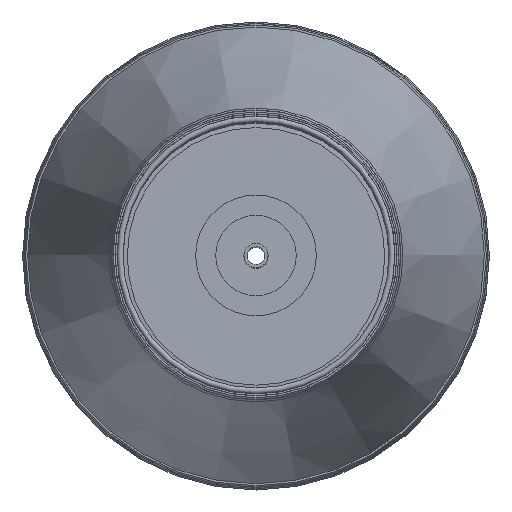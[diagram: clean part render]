
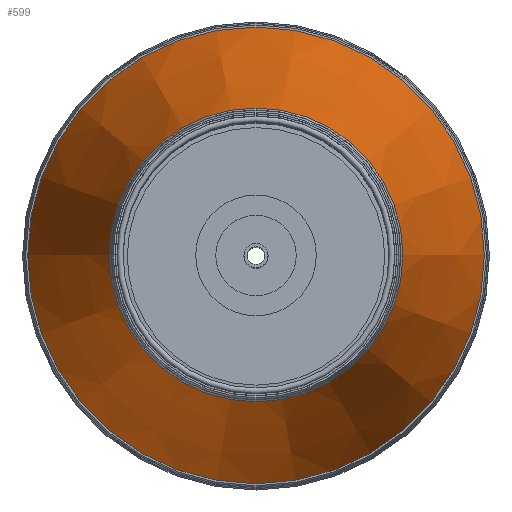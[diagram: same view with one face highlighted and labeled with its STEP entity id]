
A CAD part, top view. The second image highlights one B-rep face of the part: STEP entity #599.
In plain terms, the highlighted conical face has half-angle 17.819 degrees and reference radius 115 mm.
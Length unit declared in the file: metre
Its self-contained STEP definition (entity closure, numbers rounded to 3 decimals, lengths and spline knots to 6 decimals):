
#599 = ADVANCED_FACE( '', ( #698, #699 ), #700, .T. );
#698 = FACE_BOUND( '', #832, .T. );
#699 = FACE_OUTER_BOUND( '', #833, .T. );
#700 = CONICAL_SURFACE( '', #834, 0.115, 0.311 );
#832 = EDGE_LOOP( '', ( #1018 ) );
#833 = EDGE_LOOP( '', ( #1019 ) );
#834 = AXIS2_PLACEMENT_3D( '', #1020, #1021, #1022 );
#1018 = ORIENTED_EDGE( '', *, *, #1140, .T. );
#1019 = ORIENTED_EDGE( '', *, *, #1141, .F. );
#1020 = CARTESIAN_POINT( '', ( 0., 0., -0.04 ) );
#1021 = DIRECTION( '', ( 0., 0., -1. ) );
#1022 = DIRECTION( '', ( -1., 0., 0. ) );
#1140 = EDGE_CURVE( '', #1210, #1210, #1211, .T. );
#1141 = EDGE_CURVE( '', #1212, #1212, #1213, .T. );
#1210 = VERTEX_POINT( '', #1444 );
#1211 = CIRCLE( '', #1445, 0.07 );
#1212 = VERTEX_POINT( '', #1446 );
#1213 = CIRCLE( '', #1447, 0.115 );
#1444 = CARTESIAN_POINT( '', ( -0.07, 0., 0.1 ) );
#1445 = AXIS2_PLACEMENT_3D( '', #1552, #1553, #1554 );
#1446 = CARTESIAN_POINT( '', ( -0.115, 0., -0.04 ) );
#1447 = AXIS2_PLACEMENT_3D( '', #1555, #1556, #1557 );
#1552 = CARTESIAN_POINT( '', ( 0., 0., 0.1 ) );
#1553 = DIRECTION( '', ( 0., 0., -1. ) );
#1554 = DIRECTION( '', ( -1., 0., 0. ) );
#1555 = CARTESIAN_POINT( '', ( 0., 0., -0.04 ) );
#1556 = DIRECTION( '', ( 0., 0., -1. ) );
#1557 = DIRECTION( '', ( -1., 0., 0. ) );
